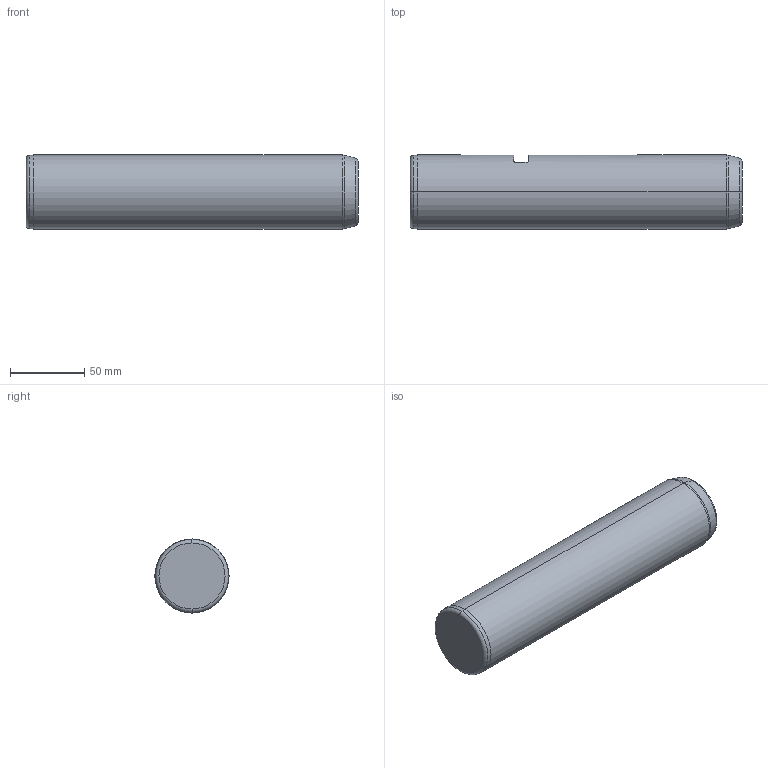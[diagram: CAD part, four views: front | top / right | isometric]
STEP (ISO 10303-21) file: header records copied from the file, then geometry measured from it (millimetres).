
FILE_DESCRIPTION (( 'STEP AP214' ), '1' );
FILE_NAME ('SP202-08-50-224.STEP', '2020-11-03T14:19:27', ( '' ), ( '' ), 'SwSTEP 2.0', 'SolidWorks 2018', '' );
FILE_SCHEMA (( 'AUTOMOTIVE_DESIGN' ));
Length unit declared in the file: millimetre
Products named in the file (1): SP202-08-50-224
Bounding box: 224 x 50 x 50 mm (x, y, z)
Volume: 432082.9 mm3; surface area: 39809.8 mm2
Topology: 1 solids, 1 shells, 26 faces, 54 edges, 31 vertices
Faces by surface type: cylinder 8, cone 6, torus 6, plane 6
Entity records: 744 total; most frequent: CARTESIAN_POINT 150, DIRECTION 132, ORIENTED_EDGE 104, AXIS2_PLACEMENT_3D 57, EDGE_CURVE 52, VERTEX_POINT 31, CIRCLE 30, EDGE_LOOP 29
